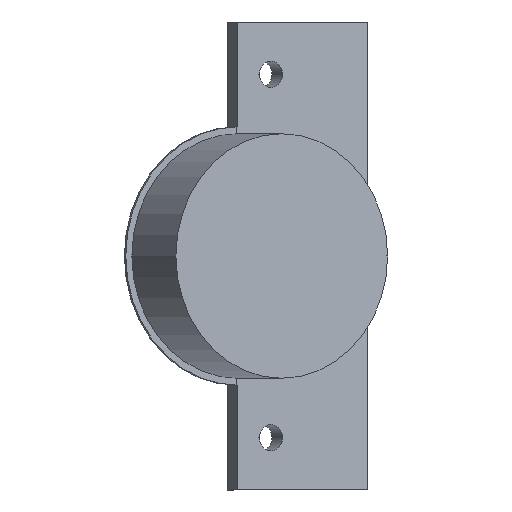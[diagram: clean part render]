
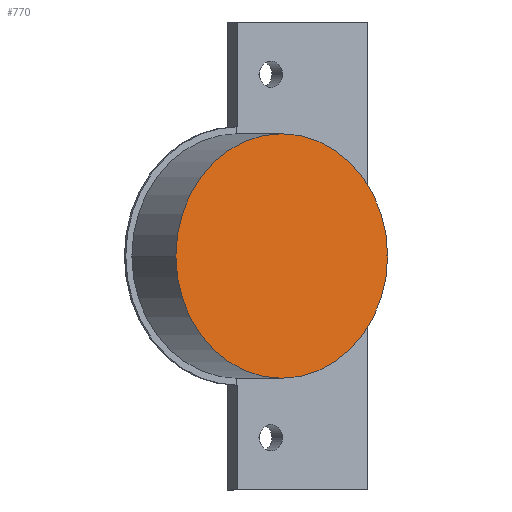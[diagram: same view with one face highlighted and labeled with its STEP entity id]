
A CAD part, front view. The second image highlights one B-rep face of the part: STEP entity #770.
In plain terms, the highlighted planar face has unit normal (0.5, -0.866, 0).
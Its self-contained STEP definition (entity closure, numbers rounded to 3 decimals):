
#17 = VERTEX_POINT ( 'NONE', #126 ) ;
#47 = VERTEX_POINT ( 'NONE', #598 ) ;
#126 = CARTESIAN_POINT ( 'NONE',  ( -3.105, -19.662, 0. ) ) ;
#219 = EDGE_CURVE ( 'NONE', #47, #17, #907, .T. ) ;
#257 = EDGE_CURVE ( 'NONE', #17, #47, #1033, .T. ) ;
#282 = AXIS2_PLACEMENT_3D ( 'NONE', #1193, #1195, #1197 ) ;
#287 = AXIS2_PLACEMENT_3D ( 'NONE', #1260, #1285, #1286 ) ;
#324 = AXIS2_PLACEMENT_3D ( 'NONE', #1396, #1399, #1400 ) ;
#487 = EDGE_LOOP ( 'NONE', ( #591, #593 ) ) ;
#591 = ORIENTED_EDGE ( 'NONE', *, *, #257, .T. ) ;
#593 = ORIENTED_EDGE ( 'NONE', *, *, #219, .T. ) ;
#598 = CARTESIAN_POINT ( 'NONE',  ( 27.205, -2.162, 0. ) ) ;
#770 = ADVANCED_FACE ( 'NONE', ( #1105 ), #1397, .T. ) ;
#907 = CIRCLE ( 'NONE', #282, 17.5 ) ;
#1033 = CIRCLE ( 'NONE', #287, 17.5 ) ;
#1105 = FACE_OUTER_BOUND ( 'NONE', #487, .T. ) ;
#1193 = CARTESIAN_POINT ( 'NONE',  ( 12.05, -10.912, 0. ) ) ;
#1195 = DIRECTION ( 'NONE',  ( 0.5, -0.866, 0. ) ) ;
#1197 = DIRECTION ( 'NONE',  ( 0.866, 0.5, 0. ) ) ;
#1260 = CARTESIAN_POINT ( 'NONE',  ( 12.05, -10.912, 0. ) ) ;
#1285 = DIRECTION ( 'NONE',  ( 0.5, -0.866, 0. ) ) ;
#1286 = DIRECTION ( 'NONE',  ( 0.866, 0.5, 0. ) ) ;
#1396 = CARTESIAN_POINT ( 'NONE',  ( 12.05, -10.912, 0. ) ) ;
#1397 = PLANE ( 'NONE',  #324 ) ;
#1399 = DIRECTION ( 'NONE',  ( 0.5, -0.866, 0. ) ) ;
#1400 = DIRECTION ( 'NONE',  ( 0.866, 0.5, 0. ) ) ;
